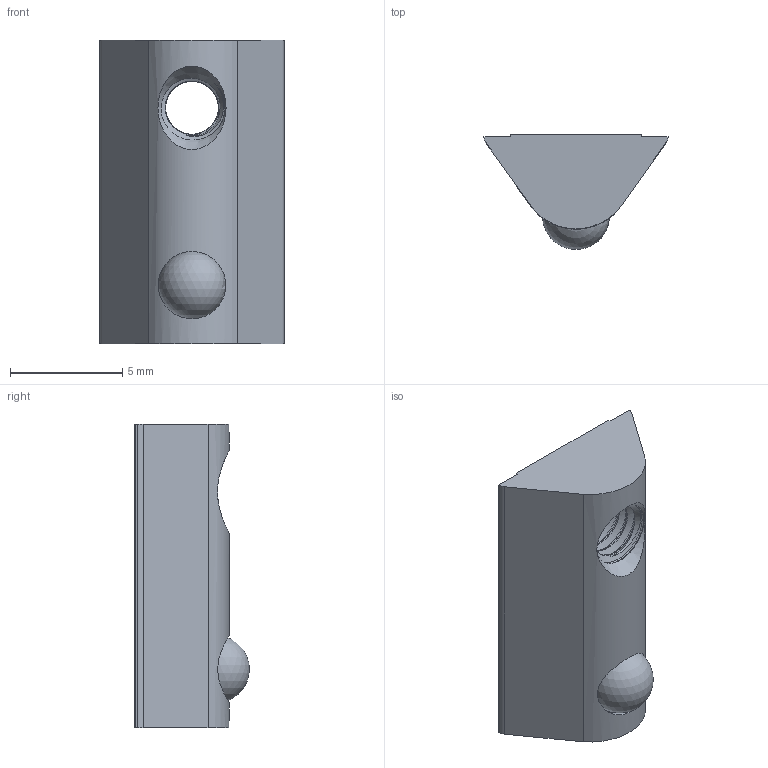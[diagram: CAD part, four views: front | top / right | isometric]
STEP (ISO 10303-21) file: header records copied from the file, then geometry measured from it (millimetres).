
FILE_DESCRIPTION(('FreeCAD Model'),'2;1');
FILE_NAME('Open CASCADE Shape Model','2021-05-04T11:21:21',('Author'),( ''),'Open CASCADE STEP processor 7.5','FreeCAD','Unknown');
FILE_SCHEMA(('AUTOMOTIVE_DESIGN { 1 0 10303 214 1 1 1 1 }'));
Length unit declared in the file: millimetre
Products named in the file (1): S206NSMSB
Bounding box: 8.2 x 5.1 x 13.5 mm (x, y, z)
Volume: 270.9 mm3; surface area: 444.9 mm2
Topology: 3 solids, 3 shells, 29 faces, 220 edges, 626 vertices
Faces by surface type: plane 13, bspline 6, cylinder 6, cone 3, sphere 1
Full cylindrical faces by diameter (mm): 3 x1
Entity records: 7970 total; most frequent: CARTESIAN_POINT 5527, DIRECTION 325, LINE 162, VECTOR 162, GEOMETRIC_CURVE_SET 147, TRIMMED_CURVE 144, ORIENTED_EDGE 142, PCURVE 142
